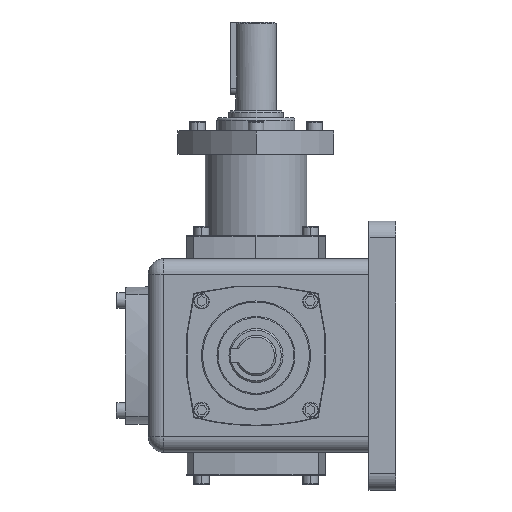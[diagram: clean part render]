
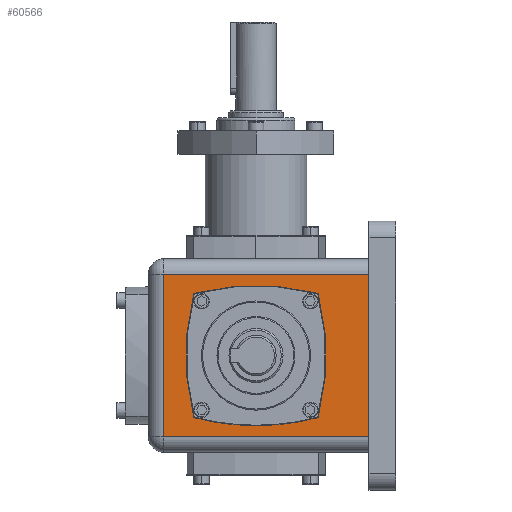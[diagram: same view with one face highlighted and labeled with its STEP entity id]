
A CAD part, left-side view. The second image highlights one B-rep face of the part: STEP entity #60566.
In plain terms, the highlighted planar face has unit normal (-1, 0, 0).
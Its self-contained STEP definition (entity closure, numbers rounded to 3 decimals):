
#1381 = CARTESIAN_POINT ( 'NONE',  ( -36., -42., -30.286 ) ) ;
#2931 = DIRECTION ( 'NONE',  ( 1., 0., 0. ) ) ;
#2942 = ORIENTED_EDGE ( 'NONE', *, *, #7107, .T. ) ;
#3211 = DIRECTION ( 'NONE',  ( 0., 0., 1. ) ) ;
#3659 = CIRCLE ( 'NONE', #47045, 90.435 ) ;
#4309 = ORIENTED_EDGE ( 'NONE', *, *, #56192, .T. ) ;
#4718 = EDGE_CURVE ( 'NONE', #21342, #55758, #31513, .T. ) ;
#4749 = DIRECTION ( 'NONE',  ( 0., 0., 1. ) ) ;
#4843 = EDGE_CURVE ( 'NONE', #55758, #41840, #5707, .T. ) ;
#5279 = CARTESIAN_POINT ( 'NONE',  ( -36., 34.286, 30.286 ) ) ;
#5707 = CIRCLE ( 'NONE', #34306, 90.435 ) ;
#6168 = CARTESIAN_POINT ( 'NONE',  ( -36., -42., 30.286 ) ) ;
#6341 = CARTESIAN_POINT ( 'NONE',  ( -36., 23.1, -23.1 ) ) ;
#6932 = VECTOR ( 'NONE', #13744, 1000. ) ;
#7107 = EDGE_CURVE ( 'NONE', #30619, #37671, #35709, .T. ) ;
#7647 = DIRECTION ( 'NONE',  ( 0., 0., 1. ) ) ;
#8615 = CARTESIAN_POINT ( 'NONE',  ( -36., 23.1, 23.1 ) ) ;
#8924 = EDGE_CURVE ( 'NONE', #19601, #56508, #3659, .T. ) ;
#9126 = VECTOR ( 'NONE', #7647, 1000. ) ;
#9284 = CARTESIAN_POINT ( 'NONE',  ( -36., -42., -36. ) ) ;
#9683 = DIRECTION ( 'NONE',  ( 0., 1., 0. ) ) ;
#9692 = VECTOR ( 'NONE', #9683, 1000. ) ;
#10005 = CARTESIAN_POINT ( 'NONE',  ( -36., 34.286, -36. ) ) ;
#11817 = VECTOR ( 'NONE', #34139, 1000. ) ;
#12466 = CARTESIAN_POINT ( 'NONE',  ( -36., 0., -64.335 ) ) ;
#12814 = LINE ( 'NONE', #60079, #9126 ) ;
#13313 = CARTESIAN_POINT ( 'NONE',  ( -36., -42., -30.286 ) ) ;
#13744 = DIRECTION ( 'NONE',  ( 0., -1., 0. ) ) ;
#17554 = ORIENTED_EDGE ( 'NONE', *, *, #28224, .T. ) ;
#18200 = CARTESIAN_POINT ( 'NONE',  ( -36., -23.1, 23.1 ) ) ;
#19141 = DIRECTION ( 'NONE',  ( 1., 0., 0. ) ) ;
#19601 = VERTEX_POINT ( 'NONE', #8615 ) ;
#20091 = FACE_BOUND ( 'NONE', #46775, .T. ) ;
#21342 = VERTEX_POINT ( 'NONE', #41363 ) ;
#21846 = EDGE_CURVE ( 'NONE', #56508, #21342, #34254, .T. ) ;
#27001 = ORIENTED_EDGE ( 'NONE', *, *, #28519, .T. ) ;
#28224 = EDGE_CURVE ( 'NONE', #37671, #51940, #12814, .T. ) ;
#28461 = CARTESIAN_POINT ( 'NONE',  ( -36., 34.286, -30.286 ) ) ;
#28519 = EDGE_CURVE ( 'NONE', #41840, #19601, #51212, .T. ) ;
#30619 = VERTEX_POINT ( 'NONE', #28461 ) ;
#31140 = AXIS2_PLACEMENT_3D ( 'NONE', #53013, #19141, #56749 ) ;
#31285 = DIRECTION ( 'NONE',  ( 1., 0., 0. ) ) ;
#31412 = VERTEX_POINT ( 'NONE', #5279 ) ;
#31513 = CIRCLE ( 'NONE', #31140, 90.435 ) ;
#31934 = CARTESIAN_POINT ( 'NONE',  ( -36., 0., -26.1 ) ) ;
#33144 = CARTESIAN_POINT ( 'NONE',  ( -36., -64.335, 0. ) ) ;
#33150 = ORIENTED_EDGE ( 'NONE', *, *, #8924, .T. ) ;
#34139 = DIRECTION ( 'NONE',  ( 0., 0., -1. ) ) ;
#34254 = CIRCLE ( 'NONE', #60197, 90.435 ) ;
#34306 = AXIS2_PLACEMENT_3D ( 'NONE', #49625, #31285, #40776 ) ;
#35709 = LINE ( 'NONE', #13313, #6932 ) ;
#36208 = DIRECTION ( 'NONE',  ( 1., 0., 0. ) ) ;
#37024 = AXIS2_PLACEMENT_3D ( 'NONE', #33144, #56689, #37482 ) ;
#37482 = DIRECTION ( 'NONE',  ( 0., 0., 1. ) ) ;
#37671 = VERTEX_POINT ( 'NONE', #1381 ) ;
#40776 = DIRECTION ( 'NONE',  ( 0., 0., 1. ) ) ;
#41297 = CARTESIAN_POINT ( 'NONE',  ( -36., 64.335, 0. ) ) ;
#41363 = CARTESIAN_POINT ( 'NONE',  ( -36., -23.1, -23.1 ) ) ;
#41840 = VERTEX_POINT ( 'NONE', #6341 ) ;
#43310 = CARTESIAN_POINT ( 'NONE',  ( -36., -42., 30.286 ) ) ;
#43610 = LINE ( 'NONE', #10005, #11817 ) ;
#43962 = EDGE_LOOP ( 'NONE', ( #4309, #2942, #17554, #47539 ) ) ;
#45197 = EDGE_CURVE ( 'NONE', #51940, #31412, #58415, .T. ) ;
#45833 = DIRECTION ( 'NONE',  ( 0., 0., 1. ) ) ;
#46775 = EDGE_LOOP ( 'NONE', ( #49524, #61214, #49396, #27001, #33150 ) ) ;
#47045 = AXIS2_PLACEMENT_3D ( 'NONE', #12466, #36208, #3211 ) ;
#47221 = PLANE ( 'NONE',  #57558 ) ;
#47539 = ORIENTED_EDGE ( 'NONE', *, *, #45197, .T. ) ;
#49396 = ORIENTED_EDGE ( 'NONE', *, *, #4843, .T. ) ;
#49524 = ORIENTED_EDGE ( 'NONE', *, *, #21846, .T. ) ;
#49625 = CARTESIAN_POINT ( 'NONE',  ( -36., 0., 64.335 ) ) ;
#51212 = CIRCLE ( 'NONE', #37024, 90.435 ) ;
#51940 = VERTEX_POINT ( 'NONE', #6168 ) ;
#53013 = CARTESIAN_POINT ( 'NONE',  ( -36., 0., 64.335 ) ) ;
#55758 = VERTEX_POINT ( 'NONE', #31934 ) ;
#56192 = EDGE_CURVE ( 'NONE', #31412, #30619, #43610, .T. ) ;
#56508 = VERTEX_POINT ( 'NONE', #18200 ) ;
#56556 = DIRECTION ( 'NONE',  ( -1., 0., 0. ) ) ;
#56689 = DIRECTION ( 'NONE',  ( 1., 0., 0. ) ) ;
#56749 = DIRECTION ( 'NONE',  ( 0., 0., 1. ) ) ;
#57034 = FACE_OUTER_BOUND ( 'NONE', #43962, .T. ) ;
#57558 = AXIS2_PLACEMENT_3D ( 'NONE', #9284, #56556, #4749 ) ;
#58415 = LINE ( 'NONE', #43310, #9692 ) ;
#60079 = CARTESIAN_POINT ( 'NONE',  ( -36., -42., -36. ) ) ;
#60197 = AXIS2_PLACEMENT_3D ( 'NONE', #41297, #2931, #45833 ) ;
#60566 = ADVANCED_FACE ( 'NONE', ( #57034, #20091 ), #47221, .T. ) ;
#61214 = ORIENTED_EDGE ( 'NONE', *, *, #4718, .T. ) ;
